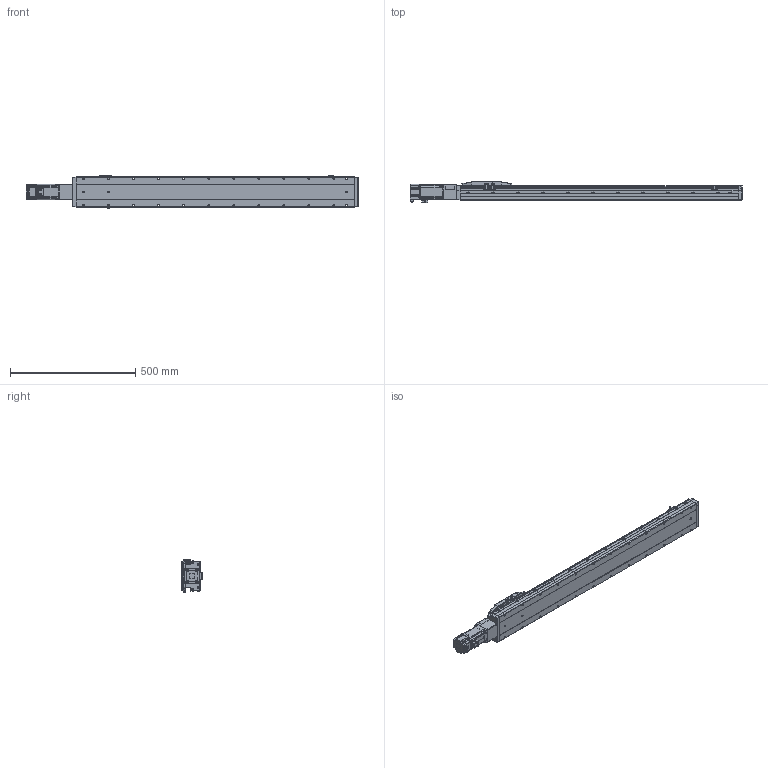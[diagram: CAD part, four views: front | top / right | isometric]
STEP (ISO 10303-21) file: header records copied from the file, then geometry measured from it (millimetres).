
FILE_DESCRIPTION (( 'STEP AP214' ), '1' );
FILE_NAME ('CTH12-L10-S900-BC-C40（简）.STEP', '2023-02-06T05:24:39', ( '' ), ( '' ), 'SwSTEP 2.0', 'SolidWorks 2018', '' );
FILE_SCHEMA (( 'AUTOMOTIVE_DESIGN' ));
Length unit declared in the file: millimetre
Products named in the file (23): 嫖萇羲壽郪磁2; CTH12覜茼え; CTH12; hex nuts, style 1-grades ab gb_GB_FASTENER_NUT_SNAB1 M3-N; 湮賑怢  裔赽-1(CTH12)賑怢; CTH嫖萇羲壽假蚾啣; CTH12_body_3; 400W萇儂; 蚐郲; M5蹟隊; 内六角圆柱头螺钉M3; CTH12賑怢ㄗ潠ㄘ; CTH12萇儂釱; CTH12-L10-S900-BC-C40（简）; CTH12底座-L1111简（900行程）; CTH12-BC-06-T40（cth8-bc-06-t40-G）_1; 内六角圆柱头螺钉M3-1; PM-Y45; CTH12賑怢郪磁; CTH12-BC-03_1; CTH12-BL_body_4; 内六角圆柱头螺钉M3-2; 嫖萇羲壽郪磁1333
Assembly tree (43 placements, depth 4):
  CTH12-L10-S900-BC-C40（简）
    CTH12底座-L1111简（900行程）
    蚐郲  x2
    CTH12-BL_body_4
    CTH12_body_3
    CTH12賑怢郪磁
      CTH12
        湮賑怢  裔赽-1(CTH12)賑怢
        CTH12賑怢ㄗ潠ㄘ
    CTH12覜茼え
    嫖萇羲壽郪磁2
      CTH嫖萇羲壽假蚾啣
      PM-Y45
      内六角圆柱头螺钉M3-1  x2
      内六角圆柱头螺钉M3-2  x2
      hex nuts, style 1-grades ab gb_GB_FASTENER_NUT_SNAB1 M3-N  x2
    CTH12萇儂釱
      CTH12-BC-03_1
      CTH12-BC-06-T40（cth8-bc-06-t40-G）_1
    嫖萇羲壽郪磁1333  x2
      CTH嫖萇羲壽假蚾啣
      PM-Y45
      内六角圆柱头螺钉M3-2
      内六角圆柱头螺钉M3-1
      hex nuts, style 1-grades ab gb_GB_FASTENER_NUT_SNAB1 M3-N
    内六角圆柱头螺钉M3  x6
    400W萇儂
    M5蹟隊  x4
Bounding box: 1325.8 x 86.5 x 131.52 mm (x, y, z)
Volume: 7711452 mm3; surface area: 710837.3 mm2
Topology: 45 solids, 47 shells, 3032 faces, 7532 edges, 4725 vertices
Faces by surface type: plane 1488, cylinder 905, cone 371, bspline 140, torus 124, sphere 4
Entity records: 94672 total; most frequent: CARTESIAN_POINT 32270, ORIENTED_EDGE 12166, DIRECTION 11878, EDGE_CURVE 6083, AXIS2_PLACEMENT_3D 4173, VERTEX_POINT 3829, VECTOR 3532, LINE 3532
